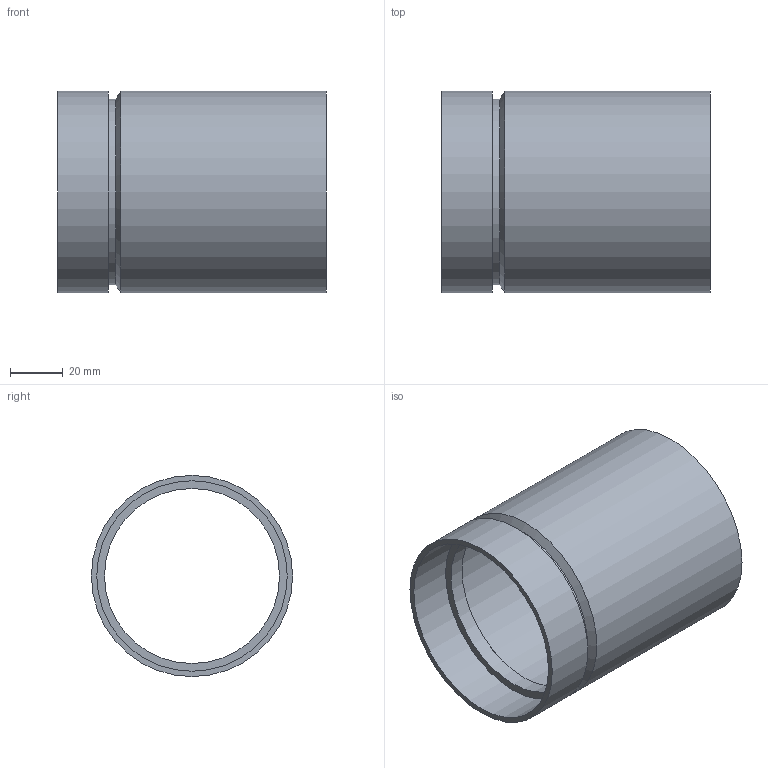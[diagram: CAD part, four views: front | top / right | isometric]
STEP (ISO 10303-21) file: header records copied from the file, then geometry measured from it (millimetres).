
FILE_DESCRIPTION(/* description */ ('VIC NIPPLE #40 VG x TE','CAx-IF Rec.Pracs.---Representation and Presentation of Product Manufacturing Information (PMI)---4.0---2014-10-13'),/* implementation_level */ '2;1');
FILE_NAME(/* name */ 'C:\Users\Vjadhav\Desktop\CAD for Inventor\Test for STEP\ST100\st100\ST100\STEP\Victaulic_SS-StrengThin 100_Adapter Nipple_No E440H\P641\Victaulic_SS-StrengThin 100_Adapter Nipple_No E440H (ST1xMPT)_76.1.stp',/* time_stamp */ '2021-06-23T12:16:51+06:00',/* author */ ('CONSTRUCTION PIPING SERVICES'),/* organization */ ('Victaulic'),/* preprocessor_version */ 'ST-DEVELOPER v17.2',/* originating_system */ 'Autodesk Inventor 2019',/* authorisation */ '');
FILE_SCHEMA (('AP242_MANAGED_MODEL_BASED_3D_ENGINEERING_MIM_LF { 1 0 10303 442 1 1 4 }'));
Length unit declared in the file: inch
Products named in the file (1): 440H-02.5 (76.1)
Bounding box: 101.6 x 76.2 x 76.2 mm (x, y, z)
Volume: 49924.5 mm3; surface area: 50085.2 mm2
Topology: 1 solids, 1 shells, 12 faces, 32 edges, 24 vertices
Faces by surface type: cylinder 6, plane 4, cone 2
Full cylindrical faces by diameter (mm): 66.294 x1, 70.358 x1, 72.136 x2, 76.2 x2
Entity records: 552 total; most frequent: DIRECTION 108, CARTESIAN_POINT 86, ORIENTED_EDGE 64, AXIS2_PLACEMENT_3D 50, EDGE_CURVE 32, CIRCLE 24, VERTEX_POINT 24, EDGE_LOOP 16
